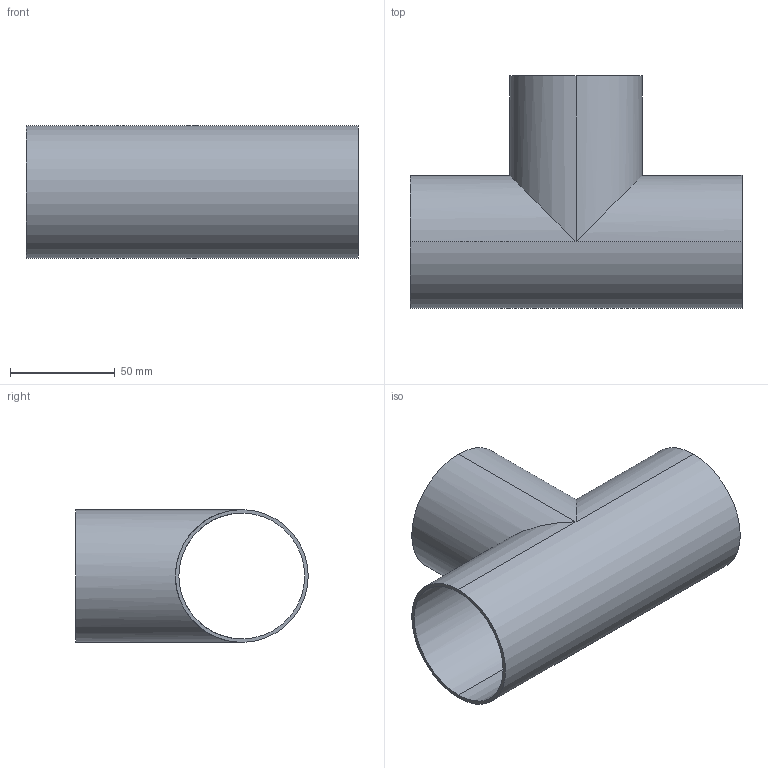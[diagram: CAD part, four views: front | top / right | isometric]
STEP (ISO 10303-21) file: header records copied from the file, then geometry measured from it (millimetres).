
FILE_DESCRIPTION (( 'STEP AP214' ), '1' );
FILE_NAME ('TE7WWW6L2.5-...STEP', '2016-05-23T06:25:52', ( 'eran' ), ( '' ), 'SwSTEP 2.0', 'SolidWorks 2016', '' );
FILE_SCHEMA (( 'AUTOMOTIVE_DESIGN' ));
Length unit declared in the file: millimetre
Products named in the file (1): TE7WWW6L2.5-..
Bounding box: 158.8 x 111.15 x 63.5 mm (x, y, z)
Volume: 63741.8 mm3; surface area: 78217.3 mm2
Topology: 1 solids, 1 shells, 13 faces, 28 edges, 16 vertices
Faces by surface type: cylinder 10, plane 3
Entity records: 392 total; most frequent: CARTESIAN_POINT 70, DIRECTION 64, ORIENTED_EDGE 56, EDGE_CURVE 28, AXIS2_PLACEMENT_3D 26, VERTEX_POINT 16, EDGE_LOOP 16, FACE_OUTER_BOUND 13
